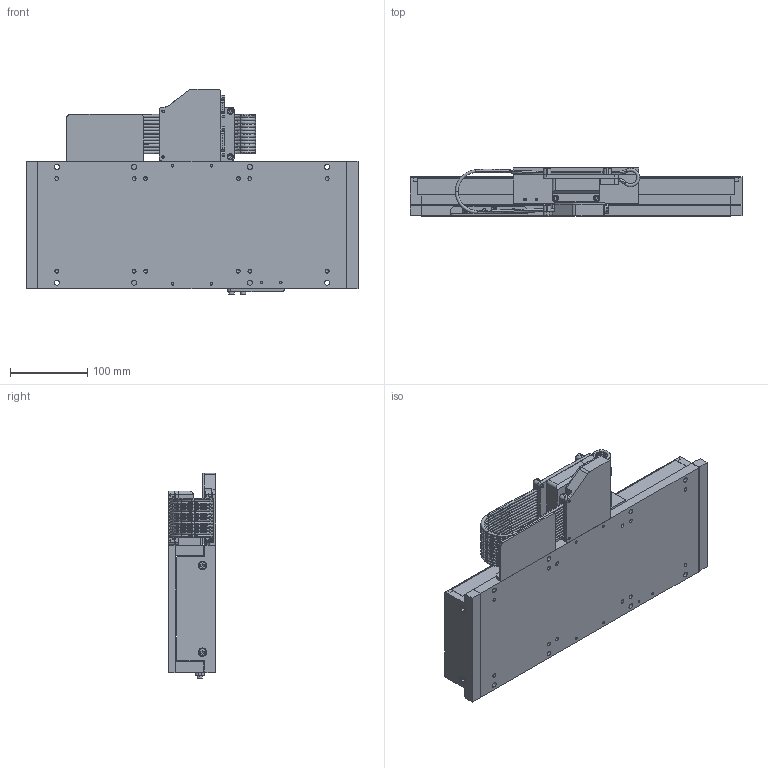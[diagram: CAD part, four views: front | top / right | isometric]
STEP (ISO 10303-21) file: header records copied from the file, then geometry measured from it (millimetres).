
FILE_DESCRIPTION (( 'STEP AP214' ), '1' );
FILE_NAME ('LM3-200-LM-EXPORT.STEP', '2024-05-06T20:26:47', ( 'lab' ), ( '' ), 'SwSTEP 2.0', 'SolidWorks 2018', '' );
FILE_SCHEMA (( 'AUTOMOTIVE_DESIGN' ));
Length unit declared in the file: millimetre
Products named in the file (19): 1000007_file_export17; 1000016_file_export30; 1000002_file_export34; 1000005_file_export35; 1000015_file_export29; 1000013_file_export11; 1000014_file_export12; 1000010_file_export19; 1000009_file_export13; 1000008_file_export10; LM3-200-LM-EXPORT; 1000017_file_export31; 1000012_file_export7; 1000018_file_export8; 1000003_file_export33; 1000004_file_export36; 1000006_file_export38; 1000011_file_export23; 1000001_file_export37
Assembly tree (39 placements, depth 2):
  LM3-200-LM-EXPORT
    1000007_file_export17  x4
    1000008_file_export10
    1000009_file_export13
    1000010_file_export19
    1000011_file_export23  x8
    1000012_file_export7
    1000013_file_export11  x2
    1000014_file_export12
    1000015_file_export29  x6
    1000016_file_export30  x3
    1000017_file_export31  x2
    1000018_file_export8
    1000003_file_export33  x2
    1000005_file_export35  x2
    1000004_file_export36
    1000002_file_export34
    1000001_file_export37
    1000006_file_export38
Bounding box: 430 x 62 x 266 mm (x, y, z)
Volume: 3862502.3 mm3; surface area: 546643.8 mm2
Topology: 95 solids, 95 shells, 3019 faces, 6921 edges, 4174 vertices
Faces by surface type: plane 1116, cylinder 840, bspline 448, cone 332, torus 283
Entity records: 111501 total; most frequent: CARTESIAN_POINT 48107, DIRECTION 11909, ORIENTED_EDGE 11402, EDGE_CURVE 5701, AXIS2_PLACEMENT_3D 4707, VERTEX_POINT 3503, EDGE_LOOP 2816, CIRCLE 2618
